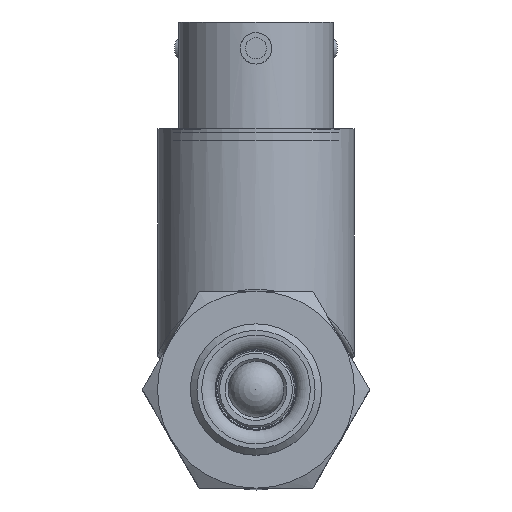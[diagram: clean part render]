
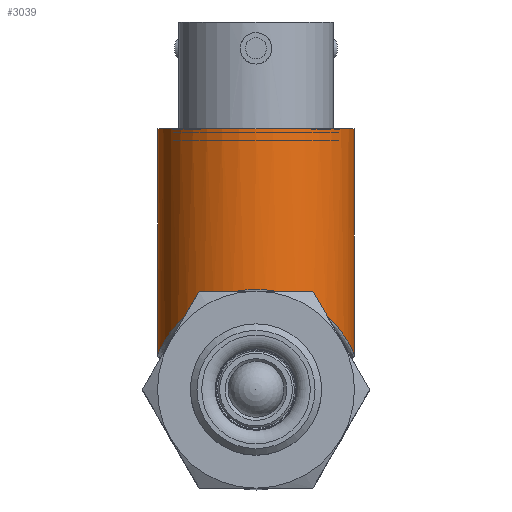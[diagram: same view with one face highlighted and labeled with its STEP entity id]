
A CAD part, top view. The second image highlights one B-rep face of the part: STEP entity #3039.
In plain terms, the highlighted cylindrical face has radius 9.525 mm (diameter 19.05 mm), a full revolution.
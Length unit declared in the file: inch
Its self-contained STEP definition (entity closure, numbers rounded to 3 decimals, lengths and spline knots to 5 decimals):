
#92=B_SPLINE_CURVE_WITH_KNOTS('',3,(#5338,#5339,#5340,#5341,#5342,#5343,
#5344,#5345,#5346,#5347,#5348,#5349,#5350,#5351,#5352,#5353,#5354,#5355,
#5356,#5357,#5358,#5359,#5360,#5361,#5362,#5363,#5364,#5365,#5366,#5367,
#5368),.UNSPECIFIED.,.F.,.F.,(4,1,1,1,1,1,1,1,1,1,1,1,1,1,1,1,1,1,1,1,1,
1,1,1,1,1,1,1,4),(-9.63704,-9.40762,-9.17816,
-8.71925,-8.41331,-8.26035,-8.10738,
-8.03089,-7.95441,-7.80144,-7.4955,
-7.18956,-6.88362,-6.57768,-6.27174,
-5.9658,-5.35393,-5.27744,-5.04799,
-4.89502,-4.81853,-4.74205,-4.58908,-4.43611,
-4.35963,-4.13017,-3.67126,-3.44181,
-3.21236),.UNSPECIFIED.);
#328=FACE_OUTER_BOUND('',#542,.T.);
#542=EDGE_LOOP('',(#2038,#2039,#2040,#2041));
#787=LINE('',#5404,#926);
#926=VECTOR('',#3903,0.375);
#1073=CIRCLE('',#3431,0.375);
#1293=VERTEX_POINT('',#5337);
#1295=VERTEX_POINT('',#5403);
#1576=EDGE_CURVE('',#1293,#1293,#92,.T.);
#1579=EDGE_CURVE('',#1295,#1293,#787,.T.);
#1580=EDGE_CURVE('',#1295,#1295,#1073,.T.);
#2038=ORIENTED_EDGE('',*,*,#1576,.F.);
#2039=ORIENTED_EDGE('',*,*,#1579,.F.);
#2040=ORIENTED_EDGE('',*,*,#1580,.F.);
#2041=ORIENTED_EDGE('',*,*,#1579,.T.);
#2750=CYLINDRICAL_SURFACE('',#3430,0.375);
#3039=ADVANCED_FACE('',(#328),#2750,.T.);
#3430=AXIS2_PLACEMENT_3D('',#5402,#3901,#3902);
#3431=AXIS2_PLACEMENT_3D('',#5405,#3904,#3905);
#3901=DIRECTION('center_axis',(0.,1.,0.));
#3902=DIRECTION('ref_axis',(0.,0.,
1.));
#3903=DIRECTION('',(0.,-1.,0.));
#3904=DIRECTION('center_axis',(0.,1.,0.));
#3905=DIRECTION('ref_axis',(0.,0.,
1.));
#5337=CARTESIAN_POINT('',(0.,0.3875,-1.31));
#5338=CARTESIAN_POINT('Ctrl Pts',(0.,0.3875,
-1.31));
#5339=CARTESIAN_POINT('Ctrl Pts',(0.03115,0.3875,
-1.31));
#5340=CARTESIAN_POINT('Ctrl Pts',(0.09333,0.38037,-1.30214));
#5341=CARTESIAN_POINT('Ctrl Pts',(0.2046,0.34112,-1.25843));
#5342=CARTESIAN_POINT('Ctrl Pts',(0.29321,0.27238,-1.18028));
#5343=CARTESIAN_POINT('Ctrl Pts',(0.3437,0.20219,-1.09173));
#5344=CARTESIAN_POINT('Ctrl Pts',(0.36561,0.15994,-1.02434));
#5345=CARTESIAN_POINT('Ctrl Pts',(0.37367,0.14038,-0.97655));
#5346=CARTESIAN_POINT('Ctrl Pts',(0.37544,0.13579,-0.935));
#5347=CARTESIAN_POINT('Ctrl Pts',(0.37368,0.14033,-0.89339));
#5348=CARTESIAN_POINT('Ctrl Pts',(0.36229,0.16812,-0.82674));
#5349=CARTESIAN_POINT('Ctrl Pts',(0.32972,0.22602,-0.74722));
#5350=CARTESIAN_POINT('Ctrl Pts',(0.26718,0.29408,-0.66481));
#5351=CARTESIAN_POINT('Ctrl Pts',(0.17867,0.35267,-0.59865));
#5352=CARTESIAN_POINT('Ctrl Pts',(0.06404,0.38891,
-0.55848));
#5353=CARTESIAN_POINT('Ctrl Pts',(-0.06402,0.38899,
-0.55817));
#5354=CARTESIAN_POINT('Ctrl Pts',(-0.21699,0.34044,
-0.61262));
#5355=CARTESIAN_POINT('Ctrl Pts',(-0.29833,0.26551,
-0.69671));
#5356=CARTESIAN_POINT('Ctrl Pts',(-0.34595,0.19729,
-0.787));
#5357=CARTESIAN_POINT('Ctrl Pts',(-0.36397,0.16397,-0.83631));
#5358=CARTESIAN_POINT('Ctrl Pts',(-0.37368,0.14037,
-0.89343));
#5359=CARTESIAN_POINT('Ctrl Pts',(-0.37544,0.13579,
-0.93503));
#5360=CARTESIAN_POINT('Ctrl Pts',(-0.37367,0.14039,
-0.97657));
#5361=CARTESIAN_POINT('Ctrl Pts',(-0.36557,0.16,-1.02438));
#5362=CARTESIAN_POINT('Ctrl Pts',(-0.35196,0.18624,
-1.06641));
#5363=CARTESIAN_POINT('Ctrl Pts',(-0.33104,0.21983,
-1.11388));
#5364=CARTESIAN_POINT('Ctrl Pts',(-0.28645,0.27756,
-1.18624));
#5365=CARTESIAN_POINT('Ctrl Pts',(-0.2046,0.34117,
-1.25845));
#5366=CARTESIAN_POINT('Ctrl Pts',(-0.09336,0.38033,
-1.3021));
#5367=CARTESIAN_POINT('Ctrl Pts',(-0.03116,0.3875,
-1.31));
#5368=CARTESIAN_POINT('Ctrl Pts',(-0.00001,0.3875,
-1.31));
#5402=CARTESIAN_POINT('Origin',(0.,0.5,-0.935));
#5403=CARTESIAN_POINT('',(0.,1.,-1.31));
#5404=CARTESIAN_POINT('',(0.,0.5,-1.31));
#5405=CARTESIAN_POINT('Origin',(0.,1.,-0.935));
